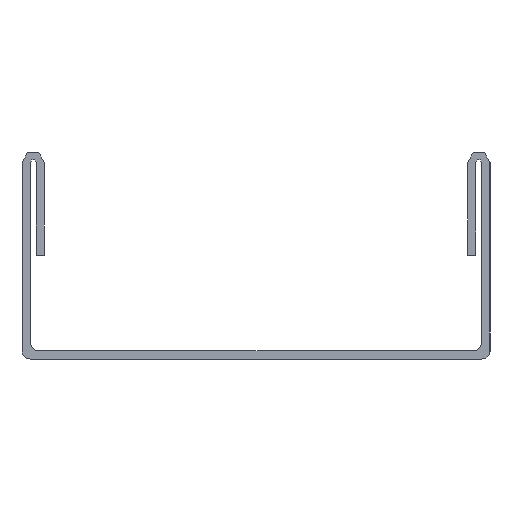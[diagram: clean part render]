
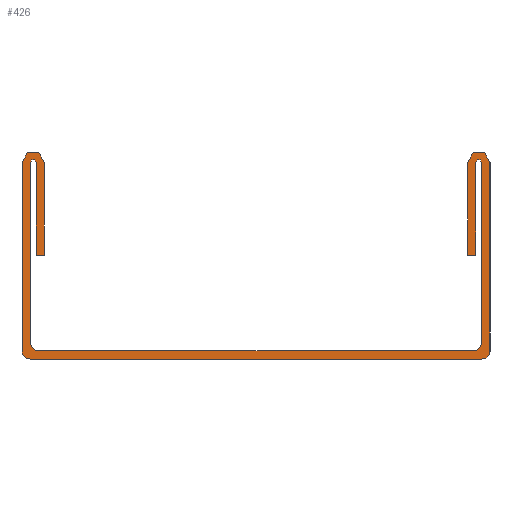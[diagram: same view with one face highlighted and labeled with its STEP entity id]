
A CAD part, left-side view. The second image highlights one B-rep face of the part: STEP entity #426.
In plain terms, the highlighted planar face has unit normal (-1, 0, 0).
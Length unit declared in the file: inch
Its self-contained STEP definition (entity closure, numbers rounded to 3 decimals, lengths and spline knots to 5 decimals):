
#15=CIRCLE('',#451,0.007);
#17=CIRCLE('',#455,0.02);
#19=CIRCLE('',#459,0.02);
#21=CIRCLE('',#463,0.007);
#23=CIRCLE('',#469,0.027);
#25=CIRCLE('',#473,0.02);
#27=CIRCLE('',#477,0.01969);
#29=CIRCLE('',#481,0.027);
#60=FACE_OUTER_BOUND('',#82,.T.);
#82=EDGE_LOOP('',(#371,#372,#373,#374,#375,#376,#377,#378,#379,#380,#381,
#382,#383,#384,#385,#386,#387,#388,#389,#390));
#83=LINE('',#613,#127);
#88=LINE('',#627,#132);
#92=LINE('',#639,#136);
#96=LINE('',#651,#140);
#100=LINE('',#663,#144);
#103=LINE('',#669,#147);
#106=LINE('',#675,#150);
#110=LINE('',#687,#154);
#114=LINE('',#699,#158);
#118=LINE('',#711,#162);
#122=LINE('',#723,#166);
#125=LINE('',#728,#169);
#127=VECTOR('',#491,0.3937);
#132=VECTOR('',#504,0.3937);
#136=VECTOR('',#516,0.3937);
#140=VECTOR('',#528,0.3937);
#144=VECTOR('',#540,0.3937);
#147=VECTOR('',#545,0.3937);
#150=VECTOR('',#550,0.3937);
#154=VECTOR('',#562,0.3937);
#158=VECTOR('',#574,0.3937);
#162=VECTOR('',#586,0.3937);
#166=VECTOR('',#598,0.3937);
#169=VECTOR('',#603,0.3937);
#171=VERTEX_POINT('',#611);
#172=VERTEX_POINT('',#612);
#175=VERTEX_POINT('',#620);
#177=VERTEX_POINT('',#626);
#179=VERTEX_POINT('',#632);
#181=VERTEX_POINT('',#638);
#183=VERTEX_POINT('',#644);
#185=VERTEX_POINT('',#650);
#187=VERTEX_POINT('',#656);
#189=VERTEX_POINT('',#662);
#191=VERTEX_POINT('',#668);
#193=VERTEX_POINT('',#674);
#195=VERTEX_POINT('',#680);
#197=VERTEX_POINT('',#686);
#199=VERTEX_POINT('',#692);
#201=VERTEX_POINT('',#698);
#203=VERTEX_POINT('',#704);
#205=VERTEX_POINT('',#710);
#207=VERTEX_POINT('',#716);
#209=VERTEX_POINT('',#722);
#211=EDGE_CURVE('',#171,#172,#83,.T.);
#215=EDGE_CURVE('',#175,#171,#15,.T.);
#218=EDGE_CURVE('',#177,#175,#88,.T.);
#221=EDGE_CURVE('',#179,#177,#17,.T.);
#224=EDGE_CURVE('',#181,#179,#92,.T.);
#227=EDGE_CURVE('',#183,#181,#19,.T.);
#230=EDGE_CURVE('',#185,#183,#96,.T.);
#233=EDGE_CURVE('',#187,#185,#21,.T.);
#236=EDGE_CURVE('',#189,#187,#100,.T.);
#239=EDGE_CURVE('',#191,#189,#103,.T.);
#242=EDGE_CURVE('',#193,#191,#106,.T.);
#245=EDGE_CURVE('',#195,#193,#23,.T.);
#248=EDGE_CURVE('',#197,#195,#110,.T.);
#251=EDGE_CURVE('',#199,#197,#25,.T.);
#254=EDGE_CURVE('',#201,#199,#114,.T.);
#257=EDGE_CURVE('',#203,#201,#27,.T.);
#260=EDGE_CURVE('',#205,#203,#118,.T.);
#263=EDGE_CURVE('',#207,#205,#29,.T.);
#266=EDGE_CURVE('',#209,#207,#122,.T.);
#269=EDGE_CURVE('',#172,#209,#125,.T.);
#371=ORIENTED_EDGE('',*,*,#269,.F.);
#372=ORIENTED_EDGE('',*,*,#211,.F.);
#373=ORIENTED_EDGE('',*,*,#215,.F.);
#374=ORIENTED_EDGE('',*,*,#218,.F.);
#375=ORIENTED_EDGE('',*,*,#221,.F.);
#376=ORIENTED_EDGE('',*,*,#224,.F.);
#377=ORIENTED_EDGE('',*,*,#227,.F.);
#378=ORIENTED_EDGE('',*,*,#230,.F.);
#379=ORIENTED_EDGE('',*,*,#233,.F.);
#380=ORIENTED_EDGE('',*,*,#236,.F.);
#381=ORIENTED_EDGE('',*,*,#239,.F.);
#382=ORIENTED_EDGE('',*,*,#242,.F.);
#383=ORIENTED_EDGE('',*,*,#245,.F.);
#384=ORIENTED_EDGE('',*,*,#248,.F.);
#385=ORIENTED_EDGE('',*,*,#251,.F.);
#386=ORIENTED_EDGE('',*,*,#254,.F.);
#387=ORIENTED_EDGE('',*,*,#257,.F.);
#388=ORIENTED_EDGE('',*,*,#260,.F.);
#389=ORIENTED_EDGE('',*,*,#263,.F.);
#390=ORIENTED_EDGE('',*,*,#266,.F.);
#404=PLANE('',#486);
#426=ADVANCED_FACE('',(#60),#404,.F.);
#451=AXIS2_PLACEMENT_3D('',#621,#497,#498);
#455=AXIS2_PLACEMENT_3D('',#633,#509,#510);
#459=AXIS2_PLACEMENT_3D('',#645,#521,#522);
#463=AXIS2_PLACEMENT_3D('',#657,#533,#534);
#469=AXIS2_PLACEMENT_3D('',#681,#555,#556);
#473=AXIS2_PLACEMENT_3D('',#693,#567,#568);
#477=AXIS2_PLACEMENT_3D('',#705,#579,#580);
#481=AXIS2_PLACEMENT_3D('',#717,#591,#592);
#486=AXIS2_PLACEMENT_3D('',#731,#607,#608);
#491=DIRECTION('',(0.,0.,-1.));
#497=DIRECTION('center_axis',(-1.,0.,0.));
#498=DIRECTION('ref_axis',(0.,-1.,0.));
#504=DIRECTION('',(0.,0.,1.));
#509=DIRECTION('center_axis',(-1.,0.,0.));
#510=DIRECTION('ref_axis',(0.,1.,0.));
#516=DIRECTION('',(0.,-1.,0.));
#521=DIRECTION('center_axis',(-1.,0.,0.));
#522=DIRECTION('ref_axis',(0.,0.,1.));
#528=DIRECTION('',(0.,0.,-1.));
#533=DIRECTION('center_axis',(-1.,0.,0.));
#534=DIRECTION('ref_axis',(0.,-1.,0.));
#540=DIRECTION('',(0.,0.,1.));
#545=DIRECTION('',(0.,1.,0.));
#550=DIRECTION('',(0.,0.,-1.));
#555=DIRECTION('center_axis',(1.,0.,0.));
#556=DIRECTION('ref_axis',(0.,1.,0.));
#562=DIRECTION('',(0.,0.,1.));
#567=DIRECTION('center_axis',(1.,0.,0.));
#568=DIRECTION('ref_axis',(0.,0.,-1.));
#574=DIRECTION('',(0.,1.,0.));
#579=DIRECTION('center_axis',(1.,0.,0.));
#580=DIRECTION('ref_axis',(0.,-1.,0.));
#586=DIRECTION('',(0.,0.,-1.));
#591=DIRECTION('center_axis',(1.,0.,0.));
#592=DIRECTION('ref_axis',(0.,1.,0.));
#598=DIRECTION('',(0.,0.,1.));
#603=DIRECTION('',(0.,1.,-0.018));
#607=DIRECTION('center_axis',(1.,0.,0.));
#608=DIRECTION('ref_axis',(0.,0.,-1.));
#611=CARTESIAN_POINT('',(0.,1.48973,-0.19718));
#612=CARTESIAN_POINT('',(0.,1.48973,-0.42001));
#613=CARTESIAN_POINT('',(0.,1.48973,-0.19718));
#620=CARTESIAN_POINT('',(0.,1.47573,-0.19718));
#621=CARTESIAN_POINT('Origin',(0.,1.48273,-0.19718));
#626=CARTESIAN_POINT('',(0.,1.47573,-0.63018));
#627=CARTESIAN_POINT('',(0.,1.47573,-0.63018));
#632=CARTESIAN_POINT('',(0.,1.49573,-0.65018));
#633=CARTESIAN_POINT('Origin',(0.,1.49573,-0.63018));
#638=CARTESIAN_POINT('',(0.,2.54073,-0.65018));
#639=CARTESIAN_POINT('',(0.,2.54073,-0.65018));
#644=CARTESIAN_POINT('',(0.,2.56073,-0.63018));
#645=CARTESIAN_POINT('Origin',(0.,2.54073,-0.63018));
#650=CARTESIAN_POINT('',(0.,2.56073,-0.19718));
#651=CARTESIAN_POINT('',(0.,2.56073,-0.19718));
#656=CARTESIAN_POINT('',(0.,2.54673,-0.19718));
#657=CARTESIAN_POINT('Origin',(0.,2.55373,-0.19718));
#662=CARTESIAN_POINT('',(0.,2.54673,-0.42018));
#663=CARTESIAN_POINT('',(0.,2.54673,-0.42018));
#668=CARTESIAN_POINT('',(0.,2.52673,-0.42018));
#669=CARTESIAN_POINT('',(0.,2.52673,-0.42018));
#674=CARTESIAN_POINT('',(0.,2.52673,-0.19718));
#675=CARTESIAN_POINT('',(0.,2.52673,-0.19718));
#680=CARTESIAN_POINT('',(0.,2.58073,-0.19718));
#681=CARTESIAN_POINT('Origin',(0.,2.55373,-0.19718));
#686=CARTESIAN_POINT('',(0.,2.58073,-0.65018));
#687=CARTESIAN_POINT('',(0.,2.58073,-0.65018));
#692=CARTESIAN_POINT('',(0.,2.56073,-0.67018));
#693=CARTESIAN_POINT('Origin',(0.,2.56073,-0.65018));
#698=CARTESIAN_POINT('',(0.,1.47542,-0.67018));
#699=CARTESIAN_POINT('',(0.,1.47542,-0.67018));
#704=CARTESIAN_POINT('',(0.,1.45573,-0.6505));
#705=CARTESIAN_POINT('Origin',(0.,1.47542,-0.6505));
#710=CARTESIAN_POINT('',(0.,1.45573,-0.19718));
#711=CARTESIAN_POINT('',(0.,1.45573,-0.19718));
#716=CARTESIAN_POINT('',(0.,1.50973,-0.19718));
#717=CARTESIAN_POINT('Origin',(0.,1.48273,-0.19718));
#722=CARTESIAN_POINT('',(0.,1.50973,-0.42036));
#723=CARTESIAN_POINT('',(0.,1.50973,-0.42036));
#728=CARTESIAN_POINT('',(0.,1.48973,-0.42001));
#731=CARTESIAN_POINT('Origin',(0.,2.01823,-0.42018));
